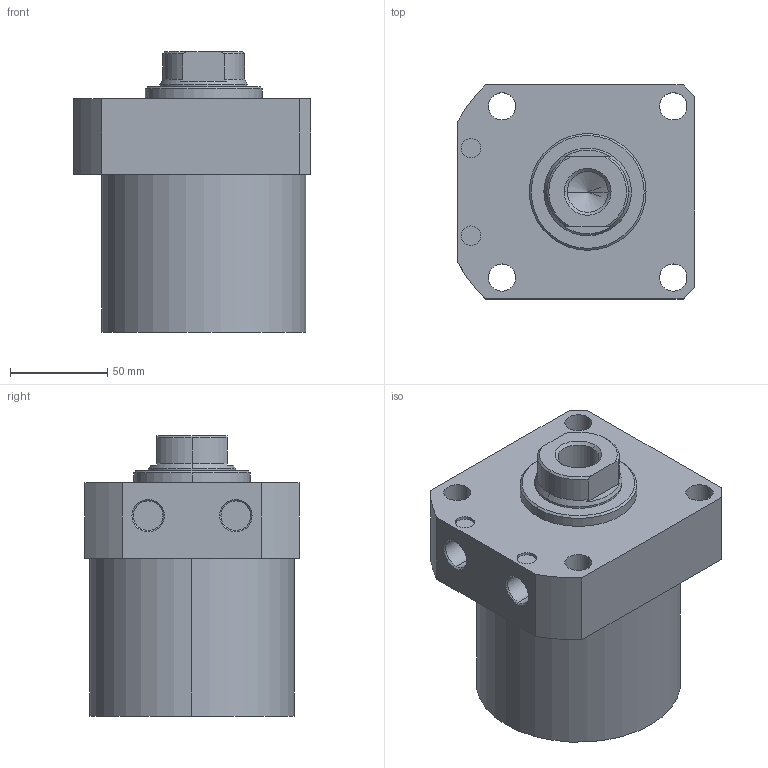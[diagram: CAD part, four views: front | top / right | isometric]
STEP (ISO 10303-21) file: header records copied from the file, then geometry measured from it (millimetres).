
FILE_DESCRIPTION (( 'STEP AP203' ), '1' );
FILE_NAME ('CLLR-105CA-060.STEP', '2019-12-19T01:34:06', ( '' ), ( '' ), 'SwSTEP 2.0', 'SolidWorks 2015', '' );
FILE_SCHEMA (( 'CONFIG_CONTROL_DESIGN' ));
Length unit declared in the file: millimetre
Products named in the file (1): CLLR-105CA-060
Bounding box: 122 x 110 x 144 mm (x, y, z)
Volume: 1203887.9 mm3; surface area: 84496.9 mm2
Topology: 1 solids, 1 shells, 63 faces, 148 edges, 93 vertices
Faces by surface type: cylinder 29, plane 19, cone 15
Entity records: 1909 total; most frequent: DIRECTION 338, CARTESIAN_POINT 327, ORIENTED_EDGE 292, EDGE_CURVE 146, AXIS2_PLACEMENT_3D 136, VERTEX_POINT 93, EDGE_LOOP 79, CIRCLE 72
